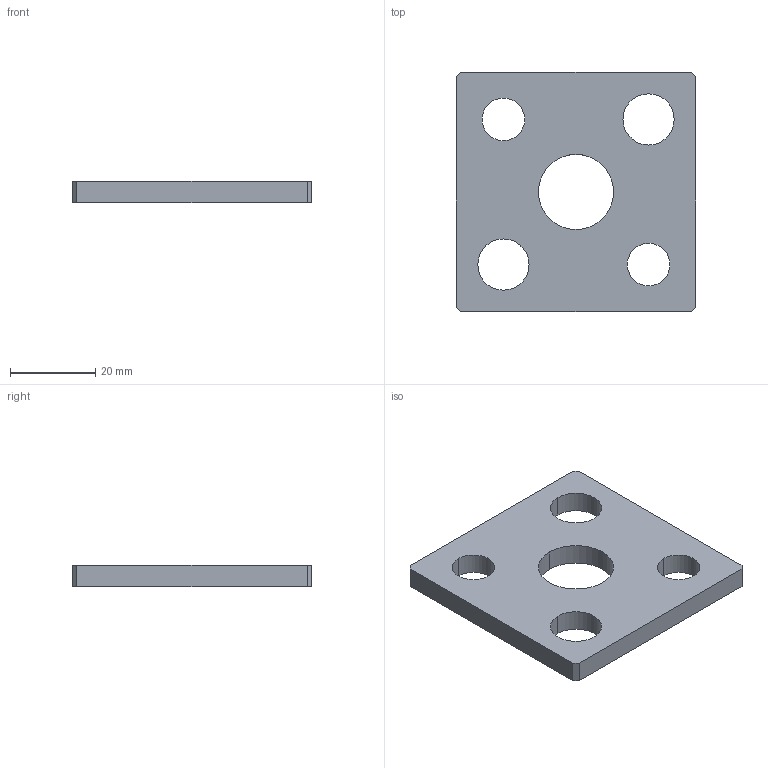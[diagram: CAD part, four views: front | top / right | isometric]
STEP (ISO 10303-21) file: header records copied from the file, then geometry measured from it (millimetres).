
FILE_DESCRIPTION(/* description */ (''),/* implementation_level */ '2;1');
FILE_NAME(/* name */ '3d_mdsp25_04301_r00.stp',/* time_stamp */ '2011-01-10T14:13:53+09:00',/* author */ ('MISUMI'),/* organization */ (''),/* preprocessor_version */ 'ST-DEVELOPER v11',/* originating_system */ 'UGS - NX 5.0',/* authorisation */ '');
FILE_SCHEMA (('CONFIG_CONTROL_DESIGN'));
Length unit declared in the file: millimetre
Products named in the file (1): 3d_mdsp25_04301_r00
Bounding box: 56 x 56 x 5 mm (x, y, z)
Volume: 12537.2 mm3; surface area: 7090.8 mm2
Topology: 1 solids, 1 shells, 20 faces, 54 edges, 36 vertices
Faces by surface type: plane 10, cylinder 10
Entity records: 744 total; most frequent: DIRECTION 116, CARTESIAN_POINT 111, ORIENTED_EDGE 108, EDGE_CURVE 54, AXIS2_PLACEMENT_3D 41, VERTEX_POINT 36, LINE 34, VECTOR 34
